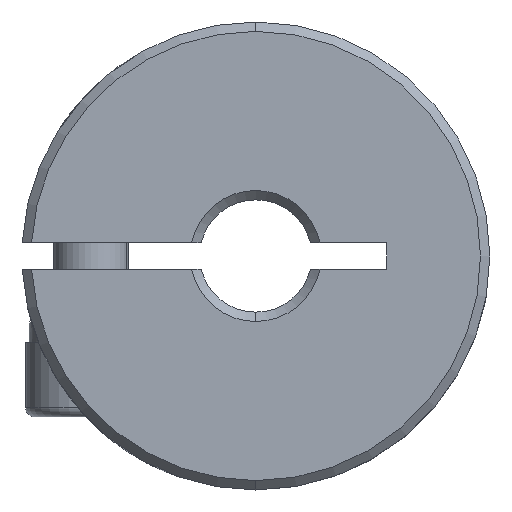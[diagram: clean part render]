
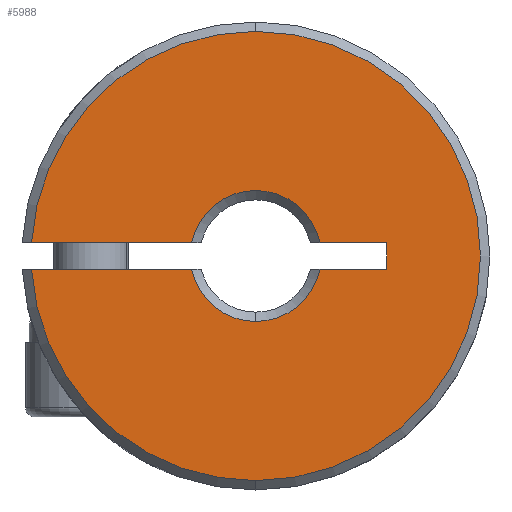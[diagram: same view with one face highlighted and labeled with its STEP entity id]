
A CAD part, front view. The second image highlights one B-rep face of the part: STEP entity #5988.
In plain terms, the highlighted planar face has unit normal (0, -1, 0).
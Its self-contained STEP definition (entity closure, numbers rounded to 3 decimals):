
#20 = DIRECTION ( 'NONE',  ( 0., 0., 1. ) ) ;
#62 = AXIS2_PLACEMENT_3D ( 'NONE', #2762, #6068, #1289 ) ;
#76 = CARTESIAN_POINT ( 'NONE',  ( 0., 0.25, -3.5 ) ) ;
#77 = CIRCLE ( 'NONE', #1785, 3.5 ) ;
#152 = VERTEX_POINT ( 'NONE', #5397 ) ;
#165 = CARTESIAN_POINT ( 'NONE',  ( 0., 0.25, 0. ) ) ;
#181 = DIRECTION ( 'NONE',  ( 0., 0., 1. ) ) ;
#193 = ORIENTED_EDGE ( 'NONE', *, *, #3436, .T. ) ;
#232 = AXIS2_PLACEMENT_3D ( 'NONE', #3970, #1119, #4462 ) ;
#313 = DIRECTION ( 'NONE',  ( 0., 0., 1. ) ) ;
#368 = DIRECTION ( 'NONE',  ( 0., -1., 0. ) ) ;
#575 = VERTEX_POINT ( 'NONE', #76 ) ;
#581 = VERTEX_POINT ( 'NONE', #3851 ) ;
#777 = VERTEX_POINT ( 'NONE', #3044 ) ;
#793 = CARTESIAN_POINT ( 'NONE',  ( -12.75, 0.25, 0.7 ) ) ;
#808 = CARTESIAN_POINT ( 'NONE',  ( 0., 0.25, 0. ) ) ;
#838 = ORIENTED_EDGE ( 'NONE', *, *, #3341, .T. ) ;
#1034 = CARTESIAN_POINT ( 'NONE',  ( 3.429, 0.25, 0.7 ) ) ;
#1119 = DIRECTION ( 'NONE',  ( 0., -1., 0. ) ) ;
#1282 = DIRECTION ( 'NONE',  ( 0., 0., 1. ) ) ;
#1289 = DIRECTION ( 'NONE',  ( 0., 0., 1. ) ) ;
#1325 = DIRECTION ( 'NONE',  ( 0., 1., 0. ) ) ;
#1355 = LINE ( 'NONE', #5072, #3727 ) ;
#1375 = EDGE_CURVE ( 'NONE', #777, #575, #3433, .T. ) ;
#1680 = DIRECTION ( 'NONE',  ( -1., 0., 0. ) ) ;
#1751 = CARTESIAN_POINT ( 'NONE',  ( -11.98, 0.25, -0.7 ) ) ;
#1764 = EDGE_CURVE ( 'NONE', #4359, #6148, #5686, .T. ) ;
#1783 = EDGE_CURVE ( 'NONE', #777, #581, #1355, .T. ) ;
#1785 = AXIS2_PLACEMENT_3D ( 'NONE', #808, #1325, #1282 ) ;
#1789 = VERTEX_POINT ( 'NONE', #5964 ) ;
#1851 = ORIENTED_EDGE ( 'NONE', *, *, #1783, .F. ) ;
#1867 = EDGE_CURVE ( 'NONE', #152, #6148, #1941, .T. ) ;
#1941 = CIRCLE ( 'NONE', #62, 3.5 ) ;
#2067 = CIRCLE ( 'NONE', #2870, 12. ) ;
#2185 = ORIENTED_EDGE ( 'NONE', *, *, #1375, .T. ) ;
#2208 = LINE ( 'NONE', #5058, #3018 ) ;
#2274 = VECTOR ( 'NONE', #4674, 1000. ) ;
#2277 = CARTESIAN_POINT ( 'NONE',  ( 7., 0.25, 0.7 ) ) ;
#2330 = CARTESIAN_POINT ( 'NONE',  ( -12.75, 0.25, 0.7 ) ) ;
#2638 = DIRECTION ( 'NONE',  ( 0., 0., 1. ) ) ;
#2762 = CARTESIAN_POINT ( 'NONE',  ( 0., 0.25, 0. ) ) ;
#2775 = CARTESIAN_POINT ( 'NONE',  ( -3.429, 0.25, -0.7 ) ) ;
#2777 = VERTEX_POINT ( 'NONE', #5394 ) ;
#2850 = FACE_OUTER_BOUND ( 'NONE', #5192, .T. ) ;
#2870 = AXIS2_PLACEMENT_3D ( 'NONE', #5122, #368, #6047 ) ;
#3015 = VERTEX_POINT ( 'NONE', #1751 ) ;
#3018 = VECTOR ( 'NONE', #313, 1000. ) ;
#3039 = CARTESIAN_POINT ( 'NONE',  ( -12.75, 0.25, -0.7 ) ) ;
#3044 = CARTESIAN_POINT ( 'NONE',  ( 3.429, 0.25, -0.7 ) ) ;
#3341 = EDGE_CURVE ( 'NONE', #2777, #3739, #4100, .T. ) ;
#3424 = DIRECTION ( 'NONE',  ( 0., -1., 0. ) ) ;
#3433 = CIRCLE ( 'NONE', #4088, 3.5 ) ;
#3436 = EDGE_CURVE ( 'NONE', #3015, #2777, #2067, .T. ) ;
#3618 = DIRECTION ( 'NONE',  ( 1., 0., 0. ) ) ;
#3680 = CARTESIAN_POINT ( 'NONE',  ( -500., 0.25, -13.609 ) ) ;
#3727 = VECTOR ( 'NONE', #3618, 1000. ) ;
#3737 = AXIS2_PLACEMENT_3D ( 'NONE', #165, #3424, #181 ) ;
#3739 = VERTEX_POINT ( 'NONE', #5368 ) ;
#3764 = ORIENTED_EDGE ( 'NONE', *, *, #1764, .F. ) ;
#3788 = EDGE_CURVE ( 'NONE', #581, #4359, #2208, .T. ) ;
#3851 = CARTESIAN_POINT ( 'NONE',  ( 7., 0.25, -0.7 ) ) ;
#3957 = EDGE_CURVE ( 'NONE', #3739, #1789, #4223, .T. ) ;
#3970 = CARTESIAN_POINT ( 'NONE',  ( 0., 0.25, 0. ) ) ;
#3987 = ORIENTED_EDGE ( 'NONE', *, *, #4245, .T. ) ;
#4024 = DIRECTION ( 'NONE',  ( 1., 0., 0. ) ) ;
#4065 = VECTOR ( 'NONE', #4024, 1000. ) ;
#4085 = ORIENTED_EDGE ( 'NONE', *, *, #4131, .F. ) ;
#4088 = AXIS2_PLACEMENT_3D ( 'NONE', #5547, #5526, #2638 ) ;
#4100 = CIRCLE ( 'NONE', #232, 12. ) ;
#4131 = EDGE_CURVE ( 'NONE', #3015, #4422, #6097, .T. ) ;
#4223 = CIRCLE ( 'NONE', #3737, 12. ) ;
#4245 = EDGE_CURVE ( 'NONE', #575, #4422, #77, .T. ) ;
#4359 = VERTEX_POINT ( 'NONE', #2277 ) ;
#4406 = VECTOR ( 'NONE', #1680, 1000. ) ;
#4422 = VERTEX_POINT ( 'NONE', #2775 ) ;
#4462 = DIRECTION ( 'NONE',  ( 0., 0., 1. ) ) ;
#4674 = DIRECTION ( 'NONE',  ( -1., 0., 0. ) ) ;
#4692 = ORIENTED_EDGE ( 'NONE', *, *, #5518, .F. ) ;
#5058 = CARTESIAN_POINT ( 'NONE',  ( 7., 0.25, 0.7 ) ) ;
#5072 = CARTESIAN_POINT ( 'NONE',  ( -12.75, 0.25, -0.7 ) ) ;
#5122 = CARTESIAN_POINT ( 'NONE',  ( 0., 0.25, 0. ) ) ;
#5192 = EDGE_LOOP ( 'NONE', ( #1851, #2185, #3987, #4085, #193, #838, #5731, #4692, #5609, #3764, #5588 ) ) ;
#5368 = CARTESIAN_POINT ( 'NONE',  ( 0., 0.25, 12. ) ) ;
#5394 = CARTESIAN_POINT ( 'NONE',  ( 0., 0.25, -12. ) ) ;
#5397 = CARTESIAN_POINT ( 'NONE',  ( -3.429, 0.25, 0.7 ) ) ;
#5518 = EDGE_CURVE ( 'NONE', #152, #1789, #5792, .T. ) ;
#5526 = DIRECTION ( 'NONE',  ( 0., 1., 0. ) ) ;
#5547 = CARTESIAN_POINT ( 'NONE',  ( 0., 0.25, 0. ) ) ;
#5570 = AXIS2_PLACEMENT_3D ( 'NONE', #3680, #5696, #20 ) ;
#5588 = ORIENTED_EDGE ( 'NONE', *, *, #3788, .F. ) ;
#5609 = ORIENTED_EDGE ( 'NONE', *, *, #1867, .T. ) ;
#5686 = LINE ( 'NONE', #793, #4406 ) ;
#5696 = DIRECTION ( 'NONE',  ( 0., 1., 0. ) ) ;
#5731 = ORIENTED_EDGE ( 'NONE', *, *, #3957, .T. ) ;
#5792 = LINE ( 'NONE', #2330, #2274 ) ;
#5964 = CARTESIAN_POINT ( 'NONE',  ( -11.98, 0.25, 0.7 ) ) ;
#5988 = ADVANCED_FACE ( 'NONE', ( #2850 ), #6044, .F. ) ;
#6044 = PLANE ( 'NONE',  #5570 ) ;
#6047 = DIRECTION ( 'NONE',  ( 0., 0., 1. ) ) ;
#6068 = DIRECTION ( 'NONE',  ( 0., 1., 0. ) ) ;
#6097 = LINE ( 'NONE', #3039, #4065 ) ;
#6148 = VERTEX_POINT ( 'NONE', #1034 ) ;
